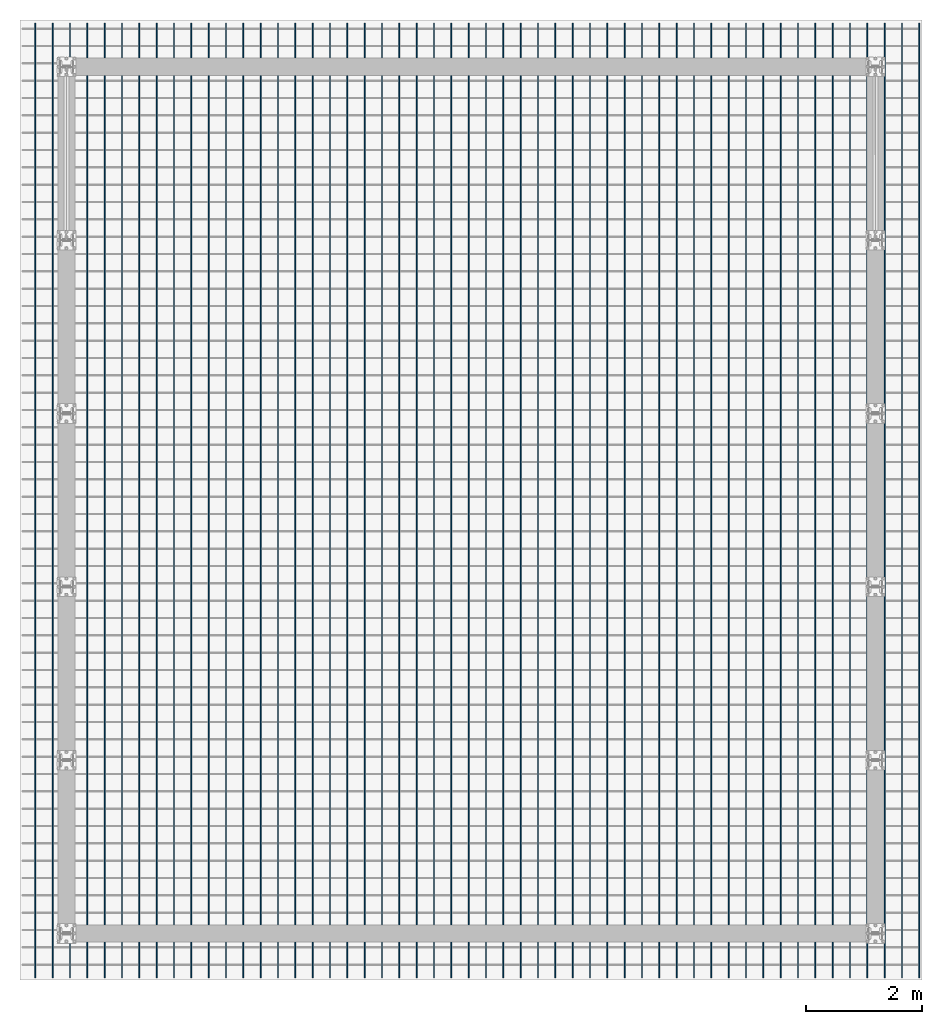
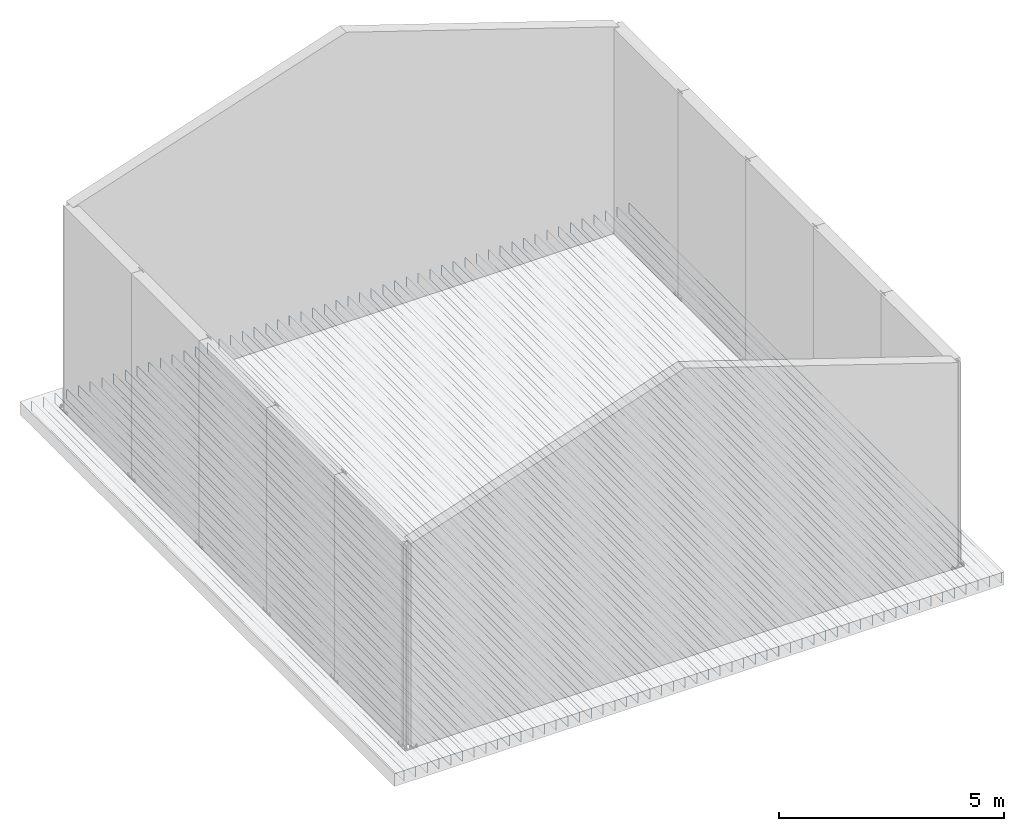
# One storey, part 6 of 29: 1 reinforcing bar.
"""IFC4 building model written with IfcOpenShell, lengths in metres."""

import ifcopenshell
import ifcopenshell.guid

model = None  # the IFC model being written
_history = None  # IfcOwnerHistory: only IFC2X3 demands one
_inside = {}  # id of a spatial element -> (the spatial element, [elements in it])
_under = {}  # id of a project, library or spatial element -> (it, [spatial elements below it])
_declared = {}  # id of a project -> (the project, [libraries it declares])
_typed = {}  # id of a type object -> (the type object, [elements of that type])
_made_of = {}  # id of a material, layer set ... -> (it, [elements and type objects made of it])


def new_model(schema):
    """Start an empty IFC model of exactly this schema.

    Asked for "IFC4X3", IfcOpenShell would pick the latest addendum, in which some entities
    have other attributes; the version numbers below select the first issue.
    IFC2X3 requires an IfcOwnerHistory on every rooted entity: one is made here for all.
    """
    global model, _history
    if schema == "IFC4X3":
        model = ifcopenshell.file(schema_version=(4, 3, 0, 0))
    else:
        model = ifcopenshell.file(schema=schema)
    _inside.clear()
    _under.clear()
    _declared.clear()
    _typed.clear()
    _made_of.clear()
    _history = None
    if model.schema == "IFC2X3":
        org = make("IfcOrganization", Name="unknown")
        user = make(
            "IfcPersonAndOrganization",
            ThePerson=make("IfcPerson", FamilyName="unknown"),
            TheOrganization=org,
        )
        app = make(
            "IfcApplication",
            ApplicationDeveloper=org,
            Version="unknown",
            ApplicationFullName="unknown",
            ApplicationIdentifier="unknown",
        )
        _history = make(
            "IfcOwnerHistory",
            OwningUser=user,
            OwningApplication=app,
            ChangeAction="ADDED",
            CreationDate=0,
        )
    return model


def make(cls, **values):
    """One entity of the class cls with the attributes given. An attribute that is None is left unset."""
    return model.create_entity(
        cls, **{name: value for name, value in values.items() if value is not None}
    )


def entity(cls, *values):
    """Any entity or typed value of the class cls, its attributes in the order of the schema. None: left unset."""
    e = model.create_entity(cls)
    for i, value in enumerate(values):
        if value is not None:
            e[i] = value
    return e


def rooted(cls, **values):
    """An entity with a GlobalId (a new one), such as an element, a storey or a relation."""
    return make(cls, GlobalId=ifcopenshell.guid.new(), OwnerHistory=_history, **values)


def si_unit(unit_type, name, prefix=None):
    """IfcSIUnit, for example si_unit("LENGTHUNIT", "METRE", prefix="MILLI")."""
    return make("IfcSIUnit", UnitType=unit_type, Prefix=prefix, Name=name)


def assignment(units):
    """IfcUnitAssignment: the units of a project."""
    return None if units is None else make("IfcUnitAssignment", Units=units)


def point(xyz):
    """IfcCartesianPoint."""
    return None if xyz is None else make("IfcCartesianPoint", Coordinates=xyz)


def direction(xyz):
    """IfcDirection."""
    return None if xyz is None else make("IfcDirection", DirectionRatios=xyz)


def frame(location, z_axis=None, x_axis=None):
    """IfcAxis2Placement3D, a coordinate frame: its origin and axes. An axis left out is left unset."""
    return make(
        "IfcAxis2Placement3D",
        Location=point(location),
        Axis=direction(z_axis),
        RefDirection=direction(x_axis),
    )


def origin_with_axes():
    """The frame at (0, 0, 0) with the z axis (0, 0, 1) and the x axis (1, 0, 0) written out."""
    return frame((0.0, 0.0, 0.0), z_axis=(0.0, 0.0, 1.0), x_axis=(1.0, 0.0, 0.0))


def place(relative_to, where):
    """IfcLocalPlacement: puts the frame where relative to a parent placement (None: the world)."""
    return make(
        "IfcLocalPlacement", PlacementRelTo=relative_to, RelativePlacement=where
    )


def context(
    kind, dimensions, precision=None, world=None, true_north=None, identifier=None
):
    """IfcGeometricRepresentationContext, for example the 3D "Model" context."""
    return make(
        "IfcGeometricRepresentationContext",
        ContextIdentifier=identifier,
        ContextType=kind,
        CoordinateSpaceDimension=dimensions,
        Precision=precision,
        WorldCoordinateSystem=world,
        TrueNorth=true_north,
    )


def project(units=None, contexts=None):
    """IfcProject with its units and contexts."""
    return rooted(
        "IfcProject",
        Name="project",
        RepresentationContexts=contexts,
        UnitsInContext=assignment(units),
    )


def spatial(cls, under=None, at=None, **own):
    """A site, building, storey or space (cls), placed at a placement, below another one or the project."""
    s = rooted(cls, ObjectPlacement=at, **own)
    if under is not None:
        _under.setdefault(under.id(), (under, []))[1].append(s)
    return s


def shape(context_of_items, identifier, shape_type, items):
    """IfcShapeRepresentation: the items that make up one representation, for example the "Body"."""
    return make(
        "IfcShapeRepresentation",
        ContextOfItems=context_of_items,
        RepresentationIdentifier=identifier,
        RepresentationType=shape_type,
        Items=items,
    )


def source(mapping_origin, context_of_items, identifier, shape_type, items):
    """IfcRepresentationMap: a shape defined once, which mapped items show again and again."""
    return make(
        "IfcRepresentationMap",
        MappingOrigin=mapping_origin,
        MappedRepresentation=shape(context_of_items, identifier, shape_type, items),
    )


def transform(
    local_origin,
    x_axis=None,
    y_axis=None,
    z_axis=None,
    scale=None,
    scale2=None,
    scale3=None,
    uniform=True,
):
    """IfcCartesianTransformationOperator3D, or its non-uniform kind. x_axis, y_axis, z_axis: its Axis1, 2, 3."""
    if uniform:
        return make(
            "IfcCartesianTransformationOperator3D",
            Axis1=direction(x_axis),
            Axis2=direction(y_axis),
            LocalOrigin=point(local_origin),
            Scale=scale,
            Axis3=direction(z_axis),
        )
    return make(
        "IfcCartesianTransformationOperator3DnonUniform",
        Axis1=direction(x_axis),
        Axis2=direction(y_axis),
        LocalOrigin=point(local_origin),
        Scale=scale,
        Axis3=direction(z_axis),
        Scale2=scale2,
        Scale3=scale3,
    )


def mapped(mapping_source, mapping_target):
    """IfcMappedItem: shows the shape of a source again, moved by a transform."""
    return make(
        "IfcMappedItem", MappingSource=mapping_source, MappingTarget=mapping_target
    )


def made_of(thing, what):
    """Note that an element or type object is made of a material, layer set ...; save() writes the relation."""
    if what is not None:
        _made_of.setdefault(what.id(), (what, []))[1].append(thing)
    return thing


def element(
    cls,
    number,
    at=None,
    inside=None,
    cuts=None,
    type_object=None,
    material=None,
    context=None,
    identifier="Body",
    shape_type=None,
    held_by="IfcProductDefinitionShape",
    body=None,
    shapes=None,
    **own,
):
    """One element of the class cls, such as IfcWall. Its Tag is "e" and its number.

    at: its placement. inside: the storey or other place that contains it. cuts: it is an
    opening in that element (IfcRelVoidsElement). A single representation is given by context,
    identifier, shape_type and body (its items); several are given by shapes. held_by: the class
    of the entity that holds the representations. save() writes the other relations.
    """
    e = rooted(cls, Tag="e%d" % number, ObjectPlacement=at, **own)
    if body is not None:
        shapes = [shape(context, identifier, shape_type, body)]
    if shapes is not None:
        e.Representation = make(held_by, Representations=shapes)
    if inside is not None:
        _inside.setdefault(inside.id(), (inside, []))[1].append(e)
    if cuts is not None:
        rooted(
            "IfcRelVoidsElement", RelatingBuildingElement=cuts, RelatedOpeningElement=e
        )
    if type_object is not None:
        _typed.setdefault(type_object.id(), (type_object, []))[1].append(e)
    return made_of(e, material)


def aggregate(whole, parts):
    """IfcRelAggregates: a whole, such as a stair, and the parts it consists of."""
    return rooted("IfcRelAggregates", RelatingObject=whole, RelatedObjects=parts)


def save(model, path):
    """Write the relations noted so far, then the file.

    IfcRelAggregates (storeys below a building ...), IfcRelContainedInSpatialStructure (elements
    in a storey), IfcRelDefinesByType, IfcRelAssociatesMaterial and IfcRelDeclares: one each for
    every whole, place, type object, material and project.
    """
    for whole, parts in _under.values():
        aggregate(whole, parts)
    for where, things in _inside.values():
        rooted(
            "IfcRelContainedInSpatialStructure",
            RelatedElements=things,
            RelatingStructure=where,
        )
    for kind, things in _typed.values():
        rooted("IfcRelDefinesByType", RelatedObjects=things, RelatingType=kind)
    for what, things in _made_of.values():
        rooted("IfcRelAssociatesMaterial", RelatedObjects=things, RelatingMaterial=what)
    for by, libraries in _declared.values():
        rooted("IfcRelDeclares", RelatingContext=by, RelatedDefinitions=libraries)
    model.write(path)


model = new_model("IFC4")

# Units and contexts
model_context = context("Model", 3, precision=1e-05, world=origin_with_axes())
ifc_project = project(units=[si_unit("LENGTHUNIT", "METRE"), si_unit("AREAUNIT", "SQUARE_METRE"), si_unit("VOLUMEUNIT", "CUBIC_METRE"), si_unit("MASSUNIT", "GRAM", prefix="KILO"), si_unit("TIMEUNIT", "SECOND"), si_unit("PLANEANGLEUNIT", "RADIAN"), si_unit("SOLIDANGLEUNIT", "STERADIAN"), si_unit("THERMODYNAMICTEMPERATUREUNIT", "DEGREE_CELSIUS")], contexts=[model_context])

# Site, building, storey
placement_1 = place(None, origin_with_axes())
site = spatial("IfcSite", under=ifc_project, at=placement_1, Name="Italia", CompositionType="ELEMENT")
building = spatial("IfcBuilding", under=site, at=placement_1, Name="Capannone", CompositionType="ELEMENT")
storey = spatial("IfcBuildingStorey", under=building, at=placement_1, Name="Storey 0", CompositionType="ELEMENT", Elevation=0.0)

# Reinforcing bar
shared_shape = source(origin_with_axes(), model_context, "Body", "AdvancedSweptSolid", [
    entity("IfcSweptDiskSolid", entity("IfcIndexedPolyCurve", entity("IfcCartesianPointList3D", [[-0.534, -0.763, -0.308], [-0.534, -0.763, -0.052], [-0.534, -0.762239, -0.0481732], [-0.534, -0.760071, -0.0449289], [-0.534, -0.756827, -0.0427612], [-0.534, -0.753, -0.042], [-0.534, 15.746, -0.042], [-0.534, 15.7498, -0.0427612], [-0.534, 15.7531, -0.0449289], [-0.534, 15.7552, -0.0481732], [-0.534, 15.756, -0.052], [-0.534, 15.756, -0.308]]), [entity("IfcLineIndex", [1, 2]), entity("IfcLineIndex", [2, 3]), entity("IfcLineIndex", [3, 4]), entity("IfcLineIndex", [4, 5]), entity("IfcLineIndex", [5, 6]), entity("IfcLineIndex", [6, 7]), entity("IfcLineIndex", [7, 8]), entity("IfcLineIndex", [8, 9]), entity("IfcLineIndex", [9, 10]), entity("IfcLineIndex", [10, 11]), entity("IfcLineIndex", [11, 12])], False), 0.006),
])
placement_2 = place(placement_1, origin_with_axes())
reinforcing_bar_placement = place(placement_2, origin_with_axes())
element("IfcReinforcingBar", 1, at=reinforcing_bar_placement, inside=storey, BarLength=17.0422, CrossSectionArea=0.0001131, NominalDiameter=0.012, context=model_context, shape_type="MappedRepresentation", body=[
    mapped(shared_shape, transform((11.4, 0.0, 0.0), x_axis=(1.0, 0.0, 0.0), y_axis=(0.0, 1.0, 0.0), z_axis=(0.0, 0.0, 1.0), scale=1.0)),
    mapped(shared_shape, transform((11.1, 0.0, 0.0), x_axis=(1.0, 0.0, 0.0), y_axis=(0.0, 1.0, 0.0), z_axis=(0.0, 0.0, 1.0), scale=1.0)),
    mapped(shared_shape, transform((9.9, 0.0, 0.0), x_axis=(1.0, 0.0, 0.0), y_axis=(0.0, 1.0, 0.0), z_axis=(0.0, 0.0, 1.0), scale=1.0)),
    mapped(shared_shape, transform((10.5, 0.0, 0.0), x_axis=(1.0, 0.0, 0.0), y_axis=(0.0, 1.0, 0.0), z_axis=(0.0, 0.0, 1.0), scale=1.0)),
    mapped(shared_shape, transform((10.2, 0.0, 0.0), x_axis=(1.0, 0.0, 0.0), y_axis=(0.0, 1.0, 0.0), z_axis=(0.0, 0.0, 1.0), scale=1.0)),
    mapped(shared_shape, transform((10.8, 0.0, 0.0), x_axis=(1.0, 0.0, 0.0), y_axis=(0.0, 1.0, 0.0), z_axis=(0.0, 0.0, 1.0), scale=1.0)),
    mapped(shared_shape, transform((9.6, 0.0, 0.0), x_axis=(1.0, 0.0, 0.0), y_axis=(0.0, 1.0, 0.0), z_axis=(0.0, 0.0, 1.0), scale=1.0)),
    mapped(shared_shape, transform((9.3, 0.0, 0.0), x_axis=(1.0, 0.0, 0.0), y_axis=(0.0, 1.0, 0.0), z_axis=(0.0, 0.0, 1.0), scale=1.0)),
    mapped(shared_shape, transform((8.1, 0.0, 0.0), x_axis=(1.0, 0.0, 0.0), y_axis=(0.0, 1.0, 0.0), z_axis=(0.0, 0.0, 1.0), scale=1.0)),
    mapped(shared_shape, transform((8.7, 0.0, 0.0), x_axis=(1.0, 0.0, 0.0), y_axis=(0.0, 1.0, 0.0), z_axis=(0.0, 0.0, 1.0), scale=1.0)),
    mapped(shared_shape, transform((8.4, 0.0, 0.0), x_axis=(1.0, 0.0, 0.0), y_axis=(0.0, 1.0, 0.0), z_axis=(0.0, 0.0, 1.0), scale=1.0)),
    mapped(shared_shape, transform((9.0, 0.0, 0.0), x_axis=(1.0, 0.0, 0.0), y_axis=(0.0, 1.0, 0.0), z_axis=(0.0, 0.0, 1.0), scale=1.0)),
    mapped(shared_shape, transform((7.8, 0.0, 0.0), x_axis=(1.0, 0.0, 0.0), y_axis=(0.0, 1.0, 0.0), z_axis=(0.0, 0.0, 1.0), scale=1.0)),
    mapped(shared_shape, transform((15.3, 0.0, 0.0), x_axis=(1.0, 0.0, 0.0), y_axis=(0.0, 1.0, 0.0), z_axis=(0.0, 0.0, 1.0), scale=1.0)),
    mapped(shared_shape, transform((14.1, 0.0, 0.0), x_axis=(1.0, 0.0, 0.0), y_axis=(0.0, 1.0, 0.0), z_axis=(0.0, 0.0, 1.0), scale=1.0)),
    mapped(shared_shape, transform((14.7, 0.0, 0.0), x_axis=(1.0, 0.0, 0.0), y_axis=(0.0, 1.0, 0.0), z_axis=(0.0, 0.0, 1.0), scale=1.0)),
    mapped(shared_shape, transform((14.4, 0.0, 0.0), x_axis=(1.0, 0.0, 0.0), y_axis=(0.0, 1.0, 0.0), z_axis=(0.0, 0.0, 1.0), scale=1.0)),
    mapped(shared_shape, transform((15.0, 0.0, 0.0), x_axis=(1.0, 0.0, 0.0), y_axis=(0.0, 1.0, 0.0), z_axis=(0.0, 0.0, 1.0), scale=1.0)),
    mapped(shared_shape, transform((13.8, 0.0, 0.0), x_axis=(1.0, 0.0, 0.0), y_axis=(0.0, 1.0, 0.0), z_axis=(0.0, 0.0, 1.0), scale=1.0)),
    mapped(shared_shape, transform((13.5, 0.0, 0.0), x_axis=(1.0, 0.0, 0.0), y_axis=(0.0, 1.0, 0.0), z_axis=(0.0, 0.0, 1.0), scale=1.0)),
    mapped(shared_shape, transform((12.3, 0.0, 0.0), x_axis=(1.0, 0.0, 0.0), y_axis=(0.0, 1.0, 0.0), z_axis=(0.0, 0.0, 1.0), scale=1.0)),
    mapped(shared_shape, transform((12.9, 0.0, 0.0), x_axis=(1.0, 0.0, 0.0), y_axis=(0.0, 1.0, 0.0), z_axis=(0.0, 0.0, 1.0), scale=1.0)),
    mapped(shared_shape, transform((12.6, 0.0, 0.0), x_axis=(1.0, 0.0, 0.0), y_axis=(0.0, 1.0, 0.0), z_axis=(0.0, 0.0, 1.0), scale=1.0)),
    mapped(shared_shape, transform((13.2, 0.0, 0.0), x_axis=(1.0, 0.0, 0.0), y_axis=(0.0, 1.0, 0.0), z_axis=(0.0, 0.0, 1.0), scale=1.0)),
    mapped(shared_shape, transform((12.0, 0.0, 0.0), x_axis=(1.0, 0.0, 0.0), y_axis=(0.0, 1.0, 0.0), z_axis=(0.0, 0.0, 1.0), scale=1.0)),
    mapped(shared_shape, transform((11.7, 0.0, 0.0), x_axis=(1.0, 0.0, 0.0), y_axis=(0.0, 1.0, 0.0), z_axis=(0.0, 0.0, 1.0), scale=1.0)),
    mapped(shared_shape, transform((2.7, 0.0, 0.0), x_axis=(1.0, 0.0, 0.0), y_axis=(0.0, 1.0, 0.0), z_axis=(0.0, 0.0, 1.0), scale=1.0)),
    mapped(shared_shape, transform((3.3, 0.0, 0.0), x_axis=(1.0, 0.0, 0.0), y_axis=(0.0, 1.0, 0.0), z_axis=(0.0, 0.0, 1.0), scale=1.0)),
    mapped(shared_shape, transform((3.0, 0.0, 0.0), x_axis=(1.0, 0.0, 0.0), y_axis=(0.0, 1.0, 0.0), z_axis=(0.0, 0.0, 1.0), scale=1.0)),
    mapped(shared_shape, transform((3.6, 0.0, 0.0), x_axis=(1.0, 0.0, 0.0), y_axis=(0.0, 1.0, 0.0), z_axis=(0.0, 0.0, 1.0), scale=1.0)),
    mapped(shared_shape, transform((2.4, 0.0, 0.0), x_axis=(1.0, 0.0, 0.0), y_axis=(0.0, 1.0, 0.0), z_axis=(0.0, 0.0, 1.0), scale=1.0)),
    mapped(shared_shape, transform((2.1, 0.0, 0.0), x_axis=(1.0, 0.0, 0.0), y_axis=(0.0, 1.0, 0.0), z_axis=(0.0, 0.0, 1.0), scale=1.0)),
    mapped(shared_shape, transform((0.9, 0.0, 0.0), x_axis=(1.0, 0.0, 0.0), y_axis=(0.0, 1.0, 0.0), z_axis=(0.0, 0.0, 1.0), scale=1.0)),
    mapped(shared_shape, transform((1.5, 0.0, 0.0), x_axis=(1.0, 0.0, 0.0), y_axis=(0.0, 1.0, 0.0), z_axis=(0.0, 0.0, 1.0), scale=1.0)),
    mapped(shared_shape, transform((1.2, 0.0, 0.0), x_axis=(1.0, 0.0, 0.0), y_axis=(0.0, 1.0, 0.0), z_axis=(0.0, 0.0, 1.0), scale=1.0)),
    mapped(shared_shape, transform((1.8, 0.0, 0.0), x_axis=(1.0, 0.0, 0.0), y_axis=(0.0, 1.0, 0.0), z_axis=(0.0, 0.0, 1.0), scale=1.0)),
    mapped(shared_shape, transform((0.6, 0.0, 0.0), x_axis=(1.0, 0.0, 0.0), y_axis=(0.0, 1.0, 0.0), z_axis=(0.0, 0.0, 1.0), scale=1.0)),
    mapped(shared_shape, transform((0.3, 0.0, 0.0), x_axis=(1.0, 0.0, 0.0), y_axis=(0.0, 1.0, 0.0), z_axis=(0.0, 0.0, 1.0), scale=1.0)),
    mapped(shared_shape, transform((6.9, 0.0, 0.0), x_axis=(1.0, 0.0, 0.0), y_axis=(0.0, 1.0, 0.0), z_axis=(0.0, 0.0, 1.0), scale=1.0)),
    mapped(shared_shape, transform((7.5, 0.0, 0.0), x_axis=(1.0, 0.0, 0.0), y_axis=(0.0, 1.0, 0.0), z_axis=(0.0, 0.0, 1.0), scale=1.0)),
    mapped(shared_shape, transform((7.2, 0.0, 0.0), x_axis=(1.0, 0.0, 0.0), y_axis=(0.0, 1.0, 0.0), z_axis=(0.0, 0.0, 1.0), scale=1.0)),
    mapped(shared_shape, transform((0.0, 0.0, 0.0), x_axis=(1.0, 0.0, 0.0), y_axis=(0.0, 1.0, 0.0), z_axis=(0.0, 0.0, 1.0), scale=1.0)),
    mapped(shared_shape, transform((6.6, 0.0, 0.0), x_axis=(1.0, 0.0, 0.0), y_axis=(0.0, 1.0, 0.0), z_axis=(0.0, 0.0, 1.0), scale=1.0)),
    mapped(shared_shape, transform((6.3, 0.0, 0.0), x_axis=(1.0, 0.0, 0.0), y_axis=(0.0, 1.0, 0.0), z_axis=(0.0, 0.0, 1.0), scale=1.0)),
    mapped(shared_shape, transform((5.1, 0.0, 0.0), x_axis=(1.0, 0.0, 0.0), y_axis=(0.0, 1.0, 0.0), z_axis=(0.0, 0.0, 1.0), scale=1.0)),
    mapped(shared_shape, transform((5.7, 0.0, 0.0), x_axis=(1.0, 0.0, 0.0), y_axis=(0.0, 1.0, 0.0), z_axis=(0.0, 0.0, 1.0), scale=1.0)),
    mapped(shared_shape, transform((5.4, 0.0, 0.0), x_axis=(1.0, 0.0, 0.0), y_axis=(0.0, 1.0, 0.0), z_axis=(0.0, 0.0, 1.0), scale=1.0)),
    mapped(shared_shape, transform((6.0, 0.0, 0.0), x_axis=(1.0, 0.0, 0.0), y_axis=(0.0, 1.0, 0.0), z_axis=(0.0, 0.0, 1.0), scale=1.0)),
    mapped(shared_shape, transform((4.8, 0.0, 0.0), x_axis=(1.0, 0.0, 0.0), y_axis=(0.0, 1.0, 0.0), z_axis=(0.0, 0.0, 1.0), scale=1.0)),
    mapped(shared_shape, transform((4.5, 0.0, 0.0), x_axis=(1.0, 0.0, 0.0), y_axis=(0.0, 1.0, 0.0), z_axis=(0.0, 0.0, 1.0), scale=1.0)),
    mapped(shared_shape, transform((10.02, 0.0, -0.35), x_axis=(-1.0, 0.0, 0.0), y_axis=(0.0, 1.0, 0.0), z_axis=(0.0, 0.0, -1.0), scale=1.0)),
    mapped(shared_shape, transform((3.9, 0.0, 0.0), x_axis=(1.0, 0.0, 0.0), y_axis=(0.0, 1.0, 0.0), z_axis=(0.0, 0.0, 1.0), scale=1.0)),
    mapped(shared_shape, transform((10.32, 0.0, -0.35), x_axis=(-1.0, 0.0, 0.0), y_axis=(0.0, 1.0, 0.0), z_axis=(0.0, 0.0, -1.0), scale=1.0)),
    mapped(shared_shape, transform((4.2, 0.0, 0.0), x_axis=(1.0, 0.0, 0.0), y_axis=(0.0, 1.0, 0.0), z_axis=(0.0, 0.0, 1.0), scale=1.0)),
    mapped(shared_shape, transform((9.72, 0.0, -0.35), x_axis=(-1.0, 0.0, 0.0), y_axis=(0.0, 1.0, 0.0), z_axis=(0.0, 0.0, -1.0), scale=1.0)),
    mapped(shared_shape, transform((9.42, 0.0, -0.35), x_axis=(-1.0, 0.0, 0.0), y_axis=(0.0, 1.0, 0.0), z_axis=(0.0, 0.0, -1.0), scale=1.0)),
    mapped(shared_shape, transform((8.22, 0.0, -0.35), x_axis=(-1.0, 0.0, 0.0), y_axis=(0.0, 1.0, 0.0), z_axis=(0.0, 0.0, -1.0), scale=1.0)),
    mapped(shared_shape, transform((8.82, 0.0, -0.35), x_axis=(-1.0, 0.0, 0.0), y_axis=(0.0, 1.0, 0.0), z_axis=(0.0, 0.0, -1.0), scale=1.0)),
    mapped(shared_shape, transform((8.52, 0.0, -0.35), x_axis=(-1.0, 0.0, 0.0), y_axis=(0.0, 1.0, 0.0), z_axis=(0.0, 0.0, -1.0), scale=1.0)),
    mapped(shared_shape, transform((9.12, 0.0, -0.35), x_axis=(-1.0, 0.0, 0.0), y_axis=(0.0, 1.0, 0.0), z_axis=(0.0, 0.0, -1.0), scale=1.0)),
    mapped(shared_shape, transform((7.92, 0.0, -0.35), x_axis=(-1.0, 0.0, 0.0), y_axis=(0.0, 1.0, 0.0), z_axis=(0.0, 0.0, -1.0), scale=1.0)),
    mapped(shared_shape, transform((7.62, 0.0, -0.35), x_axis=(-1.0, 0.0, 0.0), y_axis=(0.0, 1.0, 0.0), z_axis=(0.0, 0.0, -1.0), scale=1.0)),
    mapped(shared_shape, transform((14.22, 0.0, -0.35), x_axis=(-1.0, 0.0, 0.0), y_axis=(0.0, 1.0, 0.0), z_axis=(0.0, 0.0, -1.0), scale=1.0)),
    mapped(shared_shape, transform((7.02, 0.0, -0.35), x_axis=(-1.0, 0.0, 0.0), y_axis=(0.0, 1.0, 0.0), z_axis=(0.0, 0.0, -1.0), scale=1.0)),
    mapped(shared_shape, transform((6.72, 0.0, -0.35), x_axis=(-1.0, 0.0, 0.0), y_axis=(0.0, 1.0, 0.0), z_axis=(0.0, 0.0, -1.0), scale=1.0)),
    mapped(shared_shape, transform((7.32, 0.0, -0.35), x_axis=(-1.0, 0.0, 0.0), y_axis=(0.0, 1.0, 0.0), z_axis=(0.0, 0.0, -1.0), scale=1.0)),
    mapped(shared_shape, transform((13.92, 0.0, -0.35), x_axis=(-1.0, 0.0, 0.0), y_axis=(0.0, 1.0, 0.0), z_axis=(0.0, 0.0, -1.0), scale=1.0)),
    mapped(shared_shape, transform((13.62, 0.0, -0.35), x_axis=(-1.0, 0.0, 0.0), y_axis=(0.0, 1.0, 0.0), z_axis=(0.0, 0.0, -1.0), scale=1.0)),
    mapped(shared_shape, transform((12.42, 0.0, -0.35), x_axis=(-1.0, 0.0, 0.0), y_axis=(0.0, 1.0, 0.0), z_axis=(0.0, 0.0, -1.0), scale=1.0)),
    mapped(shared_shape, transform((13.02, 0.0, -0.35), x_axis=(-1.0, 0.0, 0.0), y_axis=(0.0, 1.0, 0.0), z_axis=(0.0, 0.0, -1.0), scale=1.0)),
    mapped(shared_shape, transform((12.72, 0.0, -0.35), x_axis=(-1.0, 0.0, 0.0), y_axis=(0.0, 1.0, 0.0), z_axis=(0.0, 0.0, -1.0), scale=1.0)),
    mapped(shared_shape, transform((13.32, 0.0, -0.35), x_axis=(-1.0, 0.0, 0.0), y_axis=(0.0, 1.0, 0.0), z_axis=(0.0, 0.0, -1.0), scale=1.0)),
    mapped(shared_shape, transform((12.12, 0.0, -0.35), x_axis=(-1.0, 0.0, 0.0), y_axis=(0.0, 1.0, 0.0), z_axis=(0.0, 0.0, -1.0), scale=1.0)),
    mapped(shared_shape, transform((11.82, 0.0, -0.35), x_axis=(-1.0, 0.0, 0.0), y_axis=(0.0, 1.0, 0.0), z_axis=(0.0, 0.0, -1.0), scale=1.0)),
    mapped(shared_shape, transform((10.62, 0.0, -0.35), x_axis=(-1.0, 0.0, 0.0), y_axis=(0.0, 1.0, 0.0), z_axis=(0.0, 0.0, -1.0), scale=1.0)),
    mapped(shared_shape, transform((11.22, 0.0, -0.35), x_axis=(-1.0, 0.0, 0.0), y_axis=(0.0, 1.0, 0.0), z_axis=(0.0, 0.0, -1.0), scale=1.0)),
    mapped(shared_shape, transform((10.92, 0.0, -0.35), x_axis=(-1.0, 0.0, 0.0), y_axis=(0.0, 1.0, 0.0), z_axis=(0.0, 0.0, -1.0), scale=1.0)),
    mapped(shared_shape, transform((11.52, 0.0, -0.35), x_axis=(-1.0, 0.0, 0.0), y_axis=(0.0, 1.0, 0.0), z_axis=(0.0, 0.0, -1.0), scale=1.0)),
    mapped(shared_shape, transform((2.52, 0.0, -0.35), x_axis=(-1.0, 0.0, 0.0), y_axis=(0.0, 1.0, 0.0), z_axis=(0.0, 0.0, -1.0), scale=1.0)),
    mapped(shared_shape, transform((2.22, 0.0, -0.35), x_axis=(-1.0, 0.0, 0.0), y_axis=(0.0, 1.0, 0.0), z_axis=(0.0, 0.0, -1.0), scale=1.0)),
    mapped(shared_shape, transform((1.02, 0.0, -0.35), x_axis=(-1.0, 0.0, 0.0), y_axis=(0.0, 1.0, 0.0), z_axis=(0.0, 0.0, -1.0), scale=1.0)),
    mapped(shared_shape, transform((1.62, 0.0, -0.35), x_axis=(-1.0, 0.0, 0.0), y_axis=(0.0, 1.0, 0.0), z_axis=(0.0, 0.0, -1.0), scale=1.0)),
    mapped(shared_shape, transform((1.32, 0.0, -0.35), x_axis=(-1.0, 0.0, 0.0), y_axis=(0.0, 1.0, 0.0), z_axis=(0.0, 0.0, -1.0), scale=1.0)),
    mapped(shared_shape, transform((1.92, 0.0, -0.35), x_axis=(-1.0, 0.0, 0.0), y_axis=(0.0, 1.0, 0.0), z_axis=(0.0, 0.0, -1.0), scale=1.0)),
    mapped(shared_shape, transform((0.72, 0.0, -0.35), x_axis=(-1.0, 0.0, 0.0), y_axis=(0.0, 1.0, 0.0), z_axis=(0.0, 0.0, -1.0), scale=1.0)),
    mapped(shared_shape, transform((0.42, 0.0, -0.35), x_axis=(-1.0, 0.0, 0.0), y_axis=(0.0, 1.0, 0.0), z_axis=(0.0, 0.0, -1.0), scale=1.0)),
    mapped(shared_shape, transform((-0.78, 0.0, -0.35), x_axis=(-1.0, 0.0, 0.0), y_axis=(0.0, 1.0, 0.0), z_axis=(0.0, 0.0, -1.0), scale=1.0)),
    mapped(shared_shape, transform((-0.18, 0.0, -0.35), x_axis=(-1.0, 0.0, 0.0), y_axis=(0.0, 1.0, 0.0), z_axis=(0.0, 0.0, -1.0), scale=1.0)),
    mapped(shared_shape, transform((-0.48, 0.0, -0.35), x_axis=(-1.0, 0.0, 0.0), y_axis=(0.0, 1.0, 0.0), z_axis=(0.0, 0.0, -1.0), scale=1.0)),
    mapped(shared_shape, transform((0.12, 0.0, -0.35), x_axis=(-1.0, 0.0, 0.0), y_axis=(0.0, 1.0, 0.0), z_axis=(0.0, 0.0, -1.0), scale=1.0)),
    mapped(shared_shape, transform((-1.08, 0.0, -0.35), x_axis=(-1.0, 0.0, 0.0), y_axis=(0.0, 1.0, 0.0), z_axis=(0.0, 0.0, -1.0), scale=1.0)),
    mapped(shared_shape, transform((6.42, 0.0, -0.35), x_axis=(-1.0, 0.0, 0.0), y_axis=(0.0, 1.0, 0.0), z_axis=(0.0, 0.0, -1.0), scale=1.0)),
    mapped(shared_shape, transform((5.22, 0.0, -0.35), x_axis=(-1.0, 0.0, 0.0), y_axis=(0.0, 1.0, 0.0), z_axis=(0.0, 0.0, -1.0), scale=1.0)),
    mapped(shared_shape, transform((5.82, 0.0, -0.35), x_axis=(-1.0, 0.0, 0.0), y_axis=(0.0, 1.0, 0.0), z_axis=(0.0, 0.0, -1.0), scale=1.0)),
    mapped(shared_shape, transform((5.52, 0.0, -0.35), x_axis=(-1.0, 0.0, 0.0), y_axis=(0.0, 1.0, 0.0), z_axis=(0.0, 0.0, -1.0), scale=1.0)),
    mapped(shared_shape, transform((6.12, 0.0, -0.35), x_axis=(-1.0, 0.0, 0.0), y_axis=(0.0, 1.0, 0.0), z_axis=(0.0, 0.0, -1.0), scale=1.0)),
    mapped(shared_shape, transform((4.92, 0.0, -0.35), x_axis=(-1.0, 0.0, 0.0), y_axis=(0.0, 1.0, 0.0), z_axis=(0.0, 0.0, -1.0), scale=1.0)),
    mapped(shared_shape, transform((4.62, 0.0, -0.35), x_axis=(-1.0, 0.0, 0.0), y_axis=(0.0, 1.0, 0.0), z_axis=(0.0, 0.0, -1.0), scale=1.0)),
    mapped(shared_shape, transform((3.42, 0.0, -0.35), x_axis=(-1.0, 0.0, 0.0), y_axis=(0.0, 1.0, 0.0), z_axis=(0.0, 0.0, -1.0), scale=1.0)),
    mapped(shared_shape, transform((4.02, 0.0, -0.35), x_axis=(-1.0, 0.0, 0.0), y_axis=(0.0, 1.0, 0.0), z_axis=(0.0, 0.0, -1.0), scale=1.0)),
    mapped(shared_shape, transform((3.72, 0.0, -0.35), x_axis=(-1.0, 0.0, 0.0), y_axis=(0.0, 1.0, 0.0), z_axis=(0.0, 0.0, -1.0), scale=1.0)),
    mapped(shared_shape, transform((4.32, 0.0, -0.35), x_axis=(-1.0, 0.0, 0.0), y_axis=(0.0, 1.0, 0.0), z_axis=(0.0, 0.0, -1.0), scale=1.0)),
    mapped(shared_shape, transform((3.12, 0.0, -0.35), x_axis=(-1.0, 0.0, 0.0), y_axis=(0.0, 1.0, 0.0), z_axis=(0.0, 0.0, -1.0), scale=1.0)),
    mapped(shared_shape, transform((2.82, 0.0, -0.35), x_axis=(-1.0, 0.0, 0.0), y_axis=(0.0, 1.0, 0.0), z_axis=(0.0, 0.0, -1.0), scale=1.0)),
])

save(model, "model.ifc")
